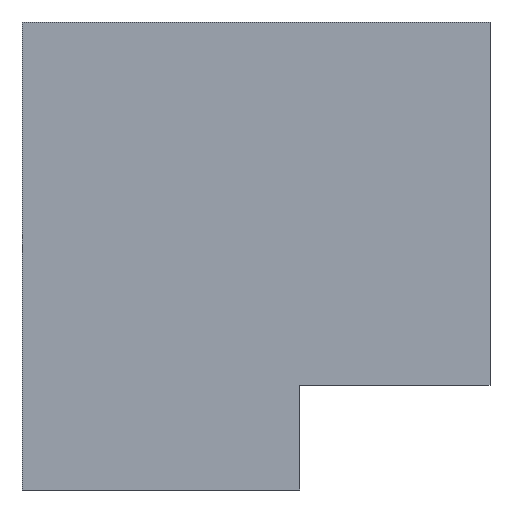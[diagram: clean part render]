
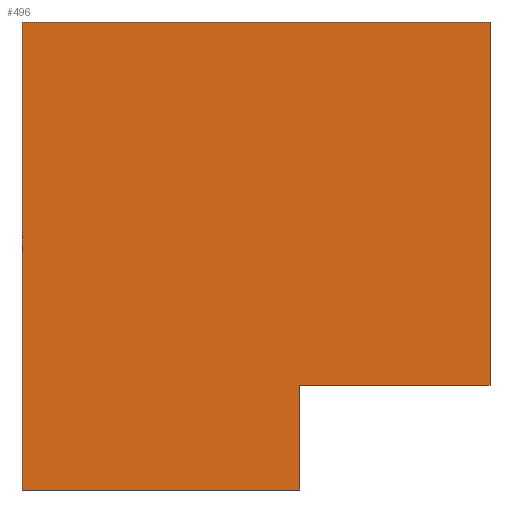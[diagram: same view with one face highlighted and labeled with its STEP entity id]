
A CAD part, left-side view. The second image highlights one B-rep face of the part: STEP entity #496.
In plain terms, the highlighted planar face has unit normal (-1, 0, 0).
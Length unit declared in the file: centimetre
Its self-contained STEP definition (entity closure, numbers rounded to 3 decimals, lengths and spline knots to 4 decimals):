
#5 = DIRECTION ( 'NONE',  ( 0., 0., -1. ) ) ;
#12 = EDGE_CURVE ( 'NONE', #288, #645, #659, .T. ) ;
#21 = EDGE_CURVE ( 'NONE', #80, #645, #264, .T. ) ;
#80 = VERTEX_POINT ( 'NONE', #257 ) ;
#88 = CARTESIAN_POINT ( 'NONE',  ( 0., 406.385, 0. ) ) ;
#92 = CARTESIAN_POINT ( 'NONE',  ( 0., 0., 1000. ) ) ;
#108 = VERTEX_POINT ( 'NONE', #88 ) ;
#114 = AXIS2_PLACEMENT_3D ( 'NONE', #720, #500, #556 ) ;
#124 = DIRECTION ( 'NONE',  ( 0., 0., 1. ) ) ;
#127 = LINE ( 'NONE', #347, #358 ) ;
#143 = EDGE_CURVE ( 'NONE', #447, #266, #389, .T. ) ;
#145 = CARTESIAN_POINT ( 'NONE',  ( 0., 0., 1000. ) ) ;
#193 = DIRECTION ( 'NONE',  ( 0., 0., -1. ) ) ;
#201 = EDGE_CURVE ( 'NONE', #266, #108, #473, .T. ) ;
#220 = ORIENTED_EDGE ( 'NONE', *, *, #704, .T. ) ;
#228 = VECTOR ( 'NONE', #688, 100. ) ;
#257 = CARTESIAN_POINT ( 'NONE',  ( 0., 406.385, 224.269 ) ) ;
#264 = LINE ( 'NONE', #535, #435 ) ;
#266 = VERTEX_POINT ( 'NONE', #348 ) ;
#272 = PLANE ( 'NONE',  #114 ) ;
#288 = VERTEX_POINT ( 'NONE', #145 ) ;
#293 = VECTOR ( 'NONE', #5, 100. ) ;
#297 = DIRECTION ( 'NONE',  ( 0., -1., 0. ) ) ;
#347 = CARTESIAN_POINT ( 'NONE',  ( 0., 1000., 1000. ) ) ;
#348 = CARTESIAN_POINT ( 'NONE',  ( 0., 1000., 0. ) ) ;
#358 = VECTOR ( 'NONE', #297, 100. ) ;
#389 = LINE ( 'NONE', #661, #293 ) ;
#410 = LINE ( 'NONE', #521, #511 ) ;
#435 = VECTOR ( 'NONE', #593, 100. ) ;
#447 = VERTEX_POINT ( 'NONE', #538 ) ;
#459 = CARTESIAN_POINT ( 'NONE',  ( 0., 0., 224.269 ) ) ;
#473 = LINE ( 'NONE', #681, #228 ) ;
#496 = ADVANCED_FACE ( 'NONE', ( #503 ), #272, .F. ) ;
#500 = DIRECTION ( 'NONE',  ( 1., 0., 0. ) ) ;
#503 = FACE_OUTER_BOUND ( 'NONE', #635, .T. ) ;
#506 = ORIENTED_EDGE ( 'NONE', *, *, #143, .T. ) ;
#511 = VECTOR ( 'NONE', #124, 100. ) ;
#516 = ORIENTED_EDGE ( 'NONE', *, *, #21, .T. ) ;
#521 = CARTESIAN_POINT ( 'NONE',  ( 0., 406.385, 0. ) ) ;
#535 = CARTESIAN_POINT ( 'NONE',  ( 0., 0., 224.269 ) ) ;
#538 = CARTESIAN_POINT ( 'NONE',  ( 0., 1000., 1000. ) ) ;
#556 = DIRECTION ( 'NONE',  ( 0., 0., -1. ) ) ;
#562 = ORIENTED_EDGE ( 'NONE', *, *, #638, .F. ) ;
#593 = DIRECTION ( 'NONE',  ( 0., -1., 0. ) ) ;
#609 = ORIENTED_EDGE ( 'NONE', *, *, #201, .T. ) ;
#635 = EDGE_LOOP ( 'NONE', ( #220, #516, #682, #562, #506, #609 ) ) ;
#638 = EDGE_CURVE ( 'NONE', #447, #288, #127, .T. ) ;
#642 = VECTOR ( 'NONE', #193, 100. ) ;
#645 = VERTEX_POINT ( 'NONE', #459 ) ;
#659 = LINE ( 'NONE', #92, #642 ) ;
#661 = CARTESIAN_POINT ( 'NONE',  ( 0., 1000., 1000. ) ) ;
#681 = CARTESIAN_POINT ( 'NONE',  ( 0., 1000., 0. ) ) ;
#682 = ORIENTED_EDGE ( 'NONE', *, *, #12, .F. ) ;
#688 = DIRECTION ( 'NONE',  ( 0., -1., 0. ) ) ;
#704 = EDGE_CURVE ( 'NONE', #108, #80, #410, .T. ) ;
#720 = CARTESIAN_POINT ( 'NONE',  ( 0., 1000., 1000. ) ) ;
